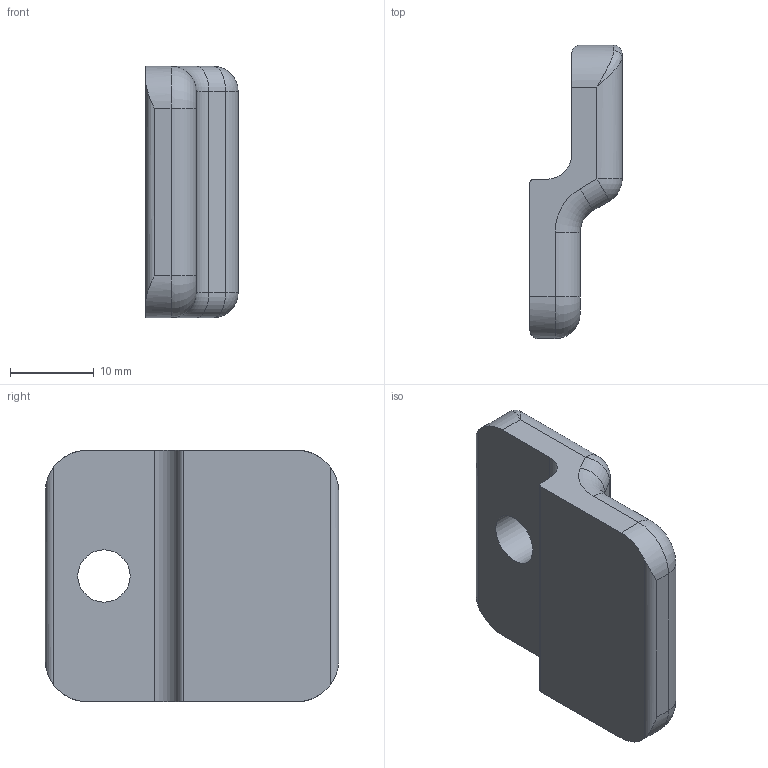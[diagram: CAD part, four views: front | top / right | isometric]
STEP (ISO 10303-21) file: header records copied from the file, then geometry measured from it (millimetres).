
FILE_DESCRIPTION (( 'STEP AP214' ), '1' );
FILE_NAME ('L19153.step', '2024-12-03T16:22:46', ( '' ), ( '' ), 'SwSTEP 2.0', 'SolidWorks 2023', '' );
FILE_SCHEMA (( 'AUTOMOTIVE_DESIGN' ));
Length unit declared in the file: millimetre
Products named in the file (1): L19153
Bounding box: 11 x 35 x 30 mm (x, y, z)
Volume: 6320.6 mm3; surface area: 2890.9 mm2
Topology: 1 solids, 1 shells, 39 faces, 94 edges, 55 vertices
Faces by surface type: cylinder 19, plane 10, torus 6, sphere 2, bspline 2
Full cylindrical faces by diameter (mm): 6.25 x1
Entity records: 1257 total; most frequent: CARTESIAN_POINT 338, DIRECTION 198, ORIENTED_EDGE 180, EDGE_CURVE 90, AXIS2_PLACEMENT_3D 78, VERTEX_POINT 54, VECTOR 42, LINE 42
